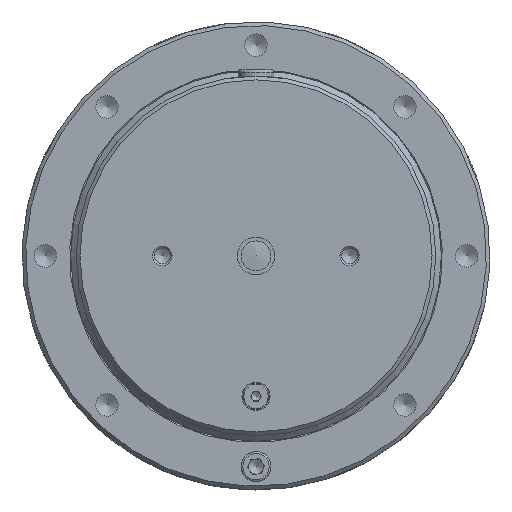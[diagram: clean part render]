
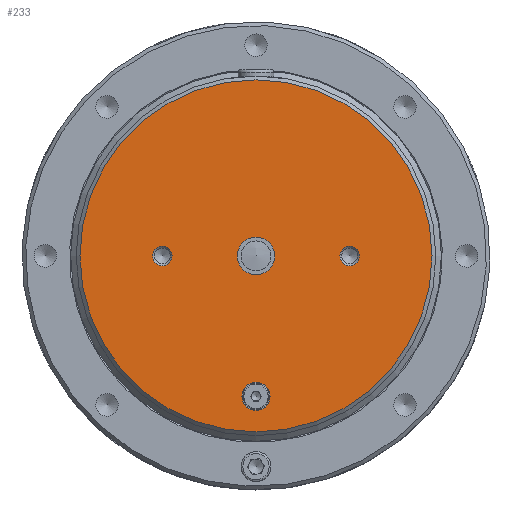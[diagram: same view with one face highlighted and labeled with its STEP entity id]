
A CAD part, left-side view. The second image highlights one B-rep face of the part: STEP entity #233.
In plain terms, the highlighted planar face has unit normal (-1, 0, 0).
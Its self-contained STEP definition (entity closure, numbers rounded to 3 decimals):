
#233 = ADVANCED_FACE( '', ( #622, #623, #624, #625, #626 ), #627, .T. );
#622 = FACE_OUTER_BOUND( '', #1276, .T. );
#623 = FACE_BOUND( '', #1277, .T. );
#624 = FACE_BOUND( '', #1278, .T. );
#625 = FACE_BOUND( '', #1279, .T. );
#626 = FACE_BOUND( '', #1280, .T. );
#627 = PLANE( '', #1281 );
#1276 = EDGE_LOOP( '', ( #2051 ) );
#1277 = EDGE_LOOP( '', ( #2052 ) );
#1278 = EDGE_LOOP( '', ( #2053 ) );
#1279 = EDGE_LOOP( '', ( #2054 ) );
#1280 = EDGE_LOOP( '', ( #2055 ) );
#1281 = AXIS2_PLACEMENT_3D( '', #2056, #2057, #2058 );
#2051 = ORIENTED_EDGE( '', *, *, #3047, .T. );
#2052 = ORIENTED_EDGE( '', *, *, #3102, .T. );
#2053 = ORIENTED_EDGE( '', *, *, #3103, .T. );
#2054 = ORIENTED_EDGE( '', *, *, #3104, .T. );
#2055 = ORIENTED_EDGE( '', *, *, #3105, .F. );
#2056 = CARTESIAN_POINT( '', ( 0., 0., 10. ) );
#2057 = DIRECTION( '', ( -1., 0., 0. ) );
#2058 = DIRECTION( '', ( 0., 0., 1. ) );
#3047 = EDGE_CURVE( '', #3471, #3471, #3472, .T. );
#3102 = EDGE_CURVE( '', #3555, #3555, #3556, .T. );
#3103 = EDGE_CURVE( '', #3557, #3557, #3558, .T. );
#3104 = EDGE_CURVE( '', #3559, #3559, #3560, .T. );
#3105 = EDGE_CURVE( '', #3561, #3561, #3562, .T. );
#3471 = VERTEX_POINT( '', #4126 );
#3472 = CIRCLE( '', #4127, 94. );
#3555 = VERTEX_POINT( '', #4308 );
#3556 = CIRCLE( '', #4309, 5.188 );
#3557 = VERTEX_POINT( '', #4310 );
#3558 = CIRCLE( '', #4311, 5.188 );
#3559 = VERTEX_POINT( '', #4312 );
#3560 = CIRCLE( '', #4313, 7.5 );
#3561 = VERTEX_POINT( '', #4314 );
#3562 = CIRCLE( '', #4315, 10. );
#4126 = CARTESIAN_POINT( '', ( 0., 0., 94. ) );
#4127 = AXIS2_PLACEMENT_3D( '', #5562, #5563, #5564 );
#4308 = CARTESIAN_POINT( '', ( 0., -50., 5.188 ) );
#4309 = AXIS2_PLACEMENT_3D( '', #5648, #5649, #5650 );
#4310 = CARTESIAN_POINT( '', ( 0., 50., 5.188 ) );
#4311 = AXIS2_PLACEMENT_3D( '', #5651, #5652, #5653 );
#4312 = CARTESIAN_POINT( '', ( 0., 0., -67.5 ) );
#4313 = AXIS2_PLACEMENT_3D( '', #5654, #5655, #5656 );
#4314 = CARTESIAN_POINT( '', ( 0., 0., 10. ) );
#4315 = AXIS2_PLACEMENT_3D( '', #5657, #5658, #5659 );
#5562 = CARTESIAN_POINT( '', ( 0., 0., 0. ) );
#5563 = DIRECTION( '', ( -1., 0., 0. ) );
#5564 = DIRECTION( '', ( 0., 0., 1. ) );
#5648 = CARTESIAN_POINT( '', ( 0., -50., 0. ) );
#5649 = DIRECTION( '', ( 1., 0., 0. ) );
#5650 = DIRECTION( '', ( 0., 0., 1. ) );
#5651 = CARTESIAN_POINT( '', ( 0., 50., 0. ) );
#5652 = DIRECTION( '', ( 1., 0., 0. ) );
#5653 = DIRECTION( '', ( 0., 0., 1. ) );
#5654 = CARTESIAN_POINT( '', ( 0., 0., -75. ) );
#5655 = DIRECTION( '', ( 1., 0., 0. ) );
#5656 = DIRECTION( '', ( 0., 0., 1. ) );
#5657 = CARTESIAN_POINT( '', ( 0., 0., 0. ) );
#5658 = DIRECTION( '', ( -1., 0., 0. ) );
#5659 = DIRECTION( '', ( 0., 0., 1. ) );
